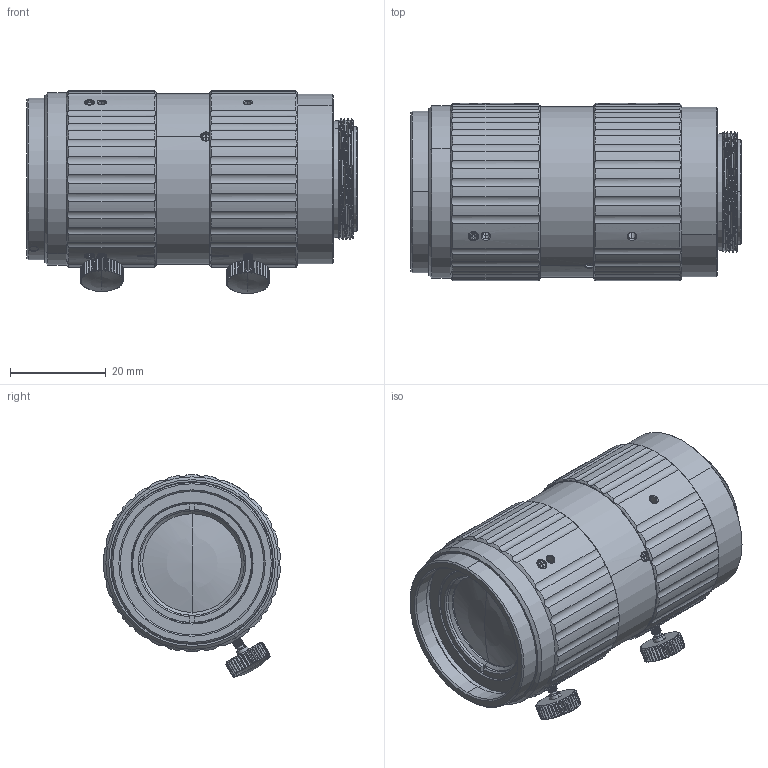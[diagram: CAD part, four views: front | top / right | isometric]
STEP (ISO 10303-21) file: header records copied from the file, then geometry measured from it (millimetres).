
FILE_DESCRIPTION((''),'2;1');
FILE_NAME('FA2525E-200_ASM','2025-04-17T17:25:38',('Admin'),(''),'CREO PARAMETRIC BY PTC INC, 2022073','CREO PARAMETRIC BY PTC INC, 2022073','');
FILE_SCHEMA(('AP242_MANAGED_MODEL_BASED_3D_ENGINEERING_MIM_LF { 1 0 10303 442 1 1 4 }'));
Products named in the file (96): FA2520A-505_AF0; FA1210A-506_AF0; FA2520A-508_AF0; FA2520A-509_AF0; FA2520A-507_AF0; FA2520A-510_AF0; FA1210A-501_AF0; FA1210A-305_AF0; HC1605A-513_AF0; FA1210A-304_AF0; FA1210A-303_AF0; FA1210A-302_AF0; HC1605A-512_AF0; FA1210A-301_AF0; FA1210A-511_AF0; FA1210A-201_AF0_ASM; M14402001_AF0; M14402001_AF1; M14402001_AF2; FA2520A-502_AF0; FA1210A-306_AF0; FA1210A-307_AF0; HC1605A-514_AF0; FA1210A-308_AF0; HC1605A-515_AF0; FA1210A-309_AF0; FA1210A-310_AF0; FA2525A-516_AF0; MA117-02-19________AF0; MA115-02-03_AF0; MA117-02-19________AF1; MA115-01-02_AF0_ASM; MA117-02-19________AF2; MA115-02-03_AF1; MA117-02-19________AF3; MA115-01-02_AF1_ASM; MA117-02-19________AF4; MA115-02-03_AF2; MA117-02-19________AF5; MA115-01-02_AF2_ASM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
Assembly tree (95 placements, depth 6):
  FA2525E-200_ASM
    FA2520A-505_AF0
    FA1210A-506_AF0
    FA2520A-508_AF0
    FA2520A-509_AF0
    FA2520A-507_AF0
    FA2520A-510_AF0
    FA1210A-201_AF0_ASM
      FA1210A-501_AF0
      FA1210A-305_AF0
      HC1605A-513_AF0
      FA1210A-304_AF0
      FA1210A-303_AF0
      FA1210A-302_AF0
      HC1605A-512_AF0
      FA1210A-301_AF0
      FA1210A-511_AF0
    M14402001_AF0
    M14402001_AF1
    M14402001_AF2
    FA2525A-202_AF0_ASM
      FA2520A-502_AF0
      FA1210A-306_AF0
      FA1210A-307_AF0
      HC1605A-514_AF0
      FA1210A-308_AF0
      HC1605A-515_AF0
      FA1210A-309_AF0
      FA1210A-310_AF0
      FA2525A-516_AF0
      MA108-00-03_AF0_ASM
        ASM0002_AF0_ASM
          MA115-01-02_AF0_ASM
            MA117-02-19________AF0
            MA115-02-03_AF0
            MA117-02-19________AF1
          MA115-01-02_AF1_ASM
            MA117-02-19________AF2
            MA115-02-03_AF1
            MA117-02-19________AF3
          MA115-01-02_AF2_ASM
            MA117-02-19________AF4
            MA115-02-03_AF2
            MA117-02-19________AF5
          MA115-01-02_AF3_ASM
            MA117-02-19________AF6
            MA115-02-03_AF3
            MA117-02-19________AF7
          MA115-01-02_AF4_ASM
            MA117-02-19________AF8
            MA115-02-03_AF4
            MA117-02-19________AF9
          MA108-02-03_AF0
          MA115-01-02_AF5_ASM
            MA117-02-19________AF10
            MA115-02-03_AF5
            MA117-02-19________AF11
          MA115-01-02_AF6_ASM
            MA117-02-19________AF12
            MA115-02-03_AF6
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Bounding box: 69.04 x 36.98 x 42.39 mm (x, y, z)
Volume: 28267.5 mm3; surface area: 37170.4 mm2
Topology: 34 solids, 34 shells, 1296 faces, 3171 edges, 1960 vertices
Faces by surface type: cylinder 489, plane 334, cone 318, bspline 109, torus 38, sphere 8
Entity records: 68534 total; most frequent: CARTESIAN_POINT 25582, DIRECTION 6431, ORIENTED_EDGE 6318, PRESENTATION_STYLE_ASSIGNMENT 3195, STYLED_ITEM 3193, CURVE_STYLE 3159, EDGE_CURVE 3159, AXIS2_PLACEMENT_3D 2669
